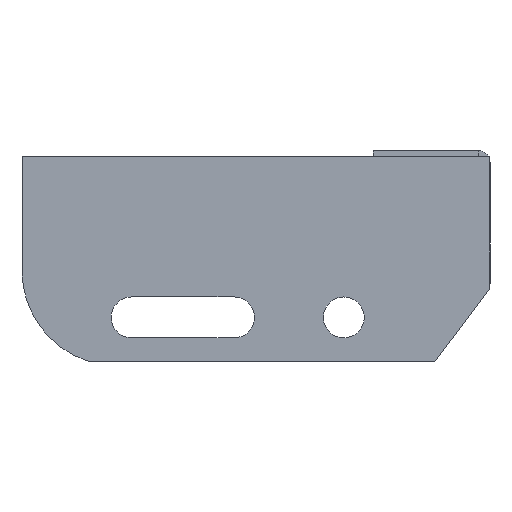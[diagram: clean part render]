
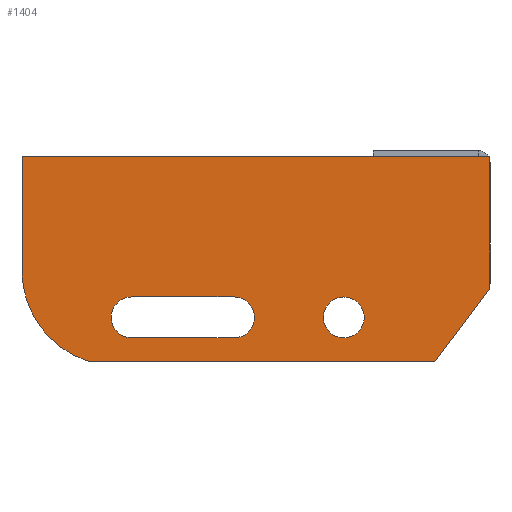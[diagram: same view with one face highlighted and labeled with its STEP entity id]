
A CAD part, left-side view. The second image highlights one B-rep face of the part: STEP entity #1404.
In plain terms, the highlighted planar face has unit normal (-1, 0, 0) as drawn and (0, 0, 1) by its records, which use the part's own axes.
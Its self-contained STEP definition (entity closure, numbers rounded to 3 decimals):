
#29 = VERTEX_POINT ( 'NONE', #623 ) ;
#35 = AXIS2_PLACEMENT_3D ( 'NONE', #1032, #1052, #1986 ) ;
#59 = CARTESIAN_POINT ( 'NONE',  ( -87.5, -55., 3. ) ) ;
#60 = DIRECTION ( 'NONE',  ( 1., 0., 0. ) ) ;
#64 = ORIENTED_EDGE ( 'NONE', *, *, #831, .F. ) ;
#73 = VERTEX_POINT ( 'NONE', #1206 ) ;
#74 = AXIS2_PLACEMENT_3D ( 'NONE', #1483, #969, #1136 ) ;
#100 = VERTEX_POINT ( 'NONE', #1675 ) ;
#109 = AXIS2_PLACEMENT_3D ( 'NONE', #136, #450, #1547 ) ;
#125 = CARTESIAN_POINT ( 'NONE',  ( 0., -45., 3. ) ) ;
#136 = CARTESIAN_POINT ( 'NONE',  ( -127.5, -39., 3. ) ) ;
#166 = VECTOR ( 'NONE', #1515, 1000. ) ;
#183 = EDGE_CURVE ( 'NONE', #991, #229, #1768, .T. ) ;
#187 = LINE ( 'NONE', #519, #2009 ) ;
#211 = CARTESIAN_POINT ( 'NONE',  ( -50., -55., 3. ) ) ;
#229 = VERTEX_POINT ( 'NONE', #335 ) ;
#242 = ORIENTED_EDGE ( 'NONE', *, *, #480, .F. ) ;
#245 = LINE ( 'NONE', #125, #166 ) ;
#248 = DIRECTION ( 'NONE',  ( -1., 0., 0. ) ) ;
#257 = ORIENTED_EDGE ( 'NONE', *, *, #1867, .T. ) ;
#271 = VECTOR ( 'NONE', #1014, 1000. ) ;
#274 = DIRECTION ( 'NONE',  ( 1., 0., 0. ) ) ;
#323 = EDGE_CURVE ( 'NONE', #1821, #515, #187, .T. ) ;
#327 = ORIENTED_EDGE ( 'NONE', *, *, #1798, .T. ) ;
#335 = CARTESIAN_POINT ( 'NONE',  ( -137.26, -70., 3. ) ) ;
#362 = DIRECTION ( 'NONE',  ( 0., -1., 0. ) ) ;
#374 = ORIENTED_EDGE ( 'NONE', *, *, #1685, .F. ) ;
#380 = LINE ( 'NONE', #1773, #1765 ) ;
#394 = EDGE_CURVE ( 'NONE', #491, #1303, #1049, .T. ) ;
#402 = CARTESIAN_POINT ( 'NONE',  ( 0., 0., 3. ) ) ;
#403 = ORIENTED_EDGE ( 'NONE', *, *, #682, .F. ) ;
#431 = VECTOR ( 'NONE', #274, 1000. ) ;
#450 = DIRECTION ( 'NONE',  ( 0., 0., 1. ) ) ;
#455 = CARTESIAN_POINT ( 'NONE',  ( -43., -55., 3. ) ) ;
#463 = ORIENTED_EDGE ( 'NONE', *, *, #183, .T. ) ;
#467 = DIRECTION ( 'NONE',  ( 0., 0., 1. ) ) ;
#480 = EDGE_CURVE ( 'NONE', #29, #100, #1897, .T. ) ;
#491 = VERTEX_POINT ( 'NONE', #741 ) ;
#515 = VERTEX_POINT ( 'NONE', #1824 ) ;
#519 = CARTESIAN_POINT ( 'NONE',  ( 0., 0., 3. ) ) ;
#524 = CARTESIAN_POINT ( 'NONE',  ( 0., 0., 3. ) ) ;
#538 = DIRECTION ( 'NONE',  ( 1., 0., 0. ) ) ;
#560 = CARTESIAN_POINT ( 'NONE',  ( -122.5, -55., 3. ) ) ;
#568 = AXIS2_PLACEMENT_3D ( 'NONE', #560, #723, #586 ) ;
#586 = DIRECTION ( 'NONE',  ( 1., 0., 0. ) ) ;
#606 = FACE_BOUND ( 'NONE', #1360, .T. ) ;
#623 = CARTESIAN_POINT ( 'NONE',  ( -129.5, -55., 3. ) ) ;
#633 = AXIS2_PLACEMENT_3D ( 'NONE', #211, #710, #60 ) ;
#682 = EDGE_CURVE ( 'NONE', #1054, #29, #1665, .T. ) ;
#684 = LINE ( 'NONE', #1342, #1511 ) ;
#695 = EDGE_CURVE ( 'NONE', #1513, #73, #245, .T. ) ;
#710 = DIRECTION ( 'NONE',  ( 0., 0., 1. ) ) ;
#723 = DIRECTION ( 'NONE',  ( 0., 0., 1. ) ) ;
#741 = CARTESIAN_POINT ( 'NONE',  ( -87.5, -62., 3. ) ) ;
#749 = DIRECTION ( 'NONE',  ( 1., 0., 0. ) ) ;
#763 = CARTESIAN_POINT ( 'NONE',  ( -160., -39., 3. ) ) ;
#780 = EDGE_LOOP ( 'NONE', ( #327, #1925, #257, #463, #1368, #1973 ) ) ;
#825 = VERTEX_POINT ( 'NONE', #1349 ) ;
#831 = EDGE_CURVE ( 'NONE', #100, #491, #1192, .T. ) ;
#851 = CIRCLE ( 'NONE', #74, 7. ) ;
#934 = VERTEX_POINT ( 'NONE', #455 ) ;
#969 = DIRECTION ( 'NONE',  ( 0., 0., 1. ) ) ;
#975 = CIRCLE ( 'NONE', #633, 7. ) ;
#991 = VERTEX_POINT ( 'NONE', #763 ) ;
#1014 = DIRECTION ( 'NONE',  ( 0., 1., 0. ) ) ;
#1032 = CARTESIAN_POINT ( 'NONE',  ( -122.5, -55., 3. ) ) ;
#1033 = ORIENTED_EDGE ( 'NONE', *, *, #1846, .F. ) ;
#1049 = CIRCLE ( 'NONE', #1579, 7. ) ;
#1052 = DIRECTION ( 'NONE',  ( 0., 0., 1. ) ) ;
#1054 = VERTEX_POINT ( 'NONE', #1969 ) ;
#1067 = EDGE_CURVE ( 'NONE', #229, #1513, #684, .T. ) ;
#1136 = DIRECTION ( 'NONE',  ( 1., 0., 0. ) ) ;
#1156 = ORIENTED_EDGE ( 'NONE', *, *, #1671, .F. ) ;
#1171 = DIRECTION ( 'NONE',  ( 0., 0., 1. ) ) ;
#1192 = LINE ( 'NONE', #1670, #431 ) ;
#1206 = CARTESIAN_POINT ( 'NONE',  ( 0., -45., 3. ) ) ;
#1217 = FACE_BOUND ( 'NONE', #1335, .T. ) ;
#1227 = CARTESIAN_POINT ( 'NONE',  ( -87.5, -48., 3. ) ) ;
#1243 = CARTESIAN_POINT ( 'NONE',  ( -127.5, -39., 3. ) ) ;
#1284 = CARTESIAN_POINT ( 'NONE',  ( -18.839, -70., 3. ) ) ;
#1293 = DIRECTION ( 'NONE',  ( -1., 0., 0. ) ) ;
#1299 = CARTESIAN_POINT ( 'NONE',  ( -160., 0., 3. ) ) ;
#1303 = VERTEX_POINT ( 'NONE', #1227 ) ;
#1306 = DIRECTION ( 'NONE',  ( 1., 0., 0. ) ) ;
#1335 = EDGE_LOOP ( 'NONE', ( #64, #242, #403, #374, #1758 ) ) ;
#1342 = CARTESIAN_POINT ( 'NONE',  ( -18.839, -70., 3. ) ) ;
#1349 = CARTESIAN_POINT ( 'NONE',  ( -57., -55., 3. ) ) ;
#1360 = EDGE_LOOP ( 'NONE', ( #1033, #1156 ) ) ;
#1368 = ORIENTED_EDGE ( 'NONE', *, *, #1067, .T. ) ;
#1398 = FACE_OUTER_BOUND ( 'NONE', #780, .T. ) ;
#1404 = ADVANCED_FACE ( 'NONE', ( #1398, #606, #1217 ), #1856, .T. ) ;
#1446 = VECTOR ( 'NONE', #362, 1000. ) ;
#1483 = CARTESIAN_POINT ( 'NONE',  ( -50., -55., 3. ) ) ;
#1511 = VECTOR ( 'NONE', #1306, 1000. ) ;
#1513 = VERTEX_POINT ( 'NONE', #1284 ) ;
#1515 = DIRECTION ( 'NONE',  ( 0.602, 0.799, 0. ) ) ;
#1547 = DIRECTION ( 'NONE',  ( 1., 0., 0. ) ) ;
#1579 = AXIS2_PLACEMENT_3D ( 'NONE', #59, #1171, #538 ) ;
#1665 = CIRCLE ( 'NONE', #35, 7. ) ;
#1670 = CARTESIAN_POINT ( 'NONE',  ( -122.5, -62., 3. ) ) ;
#1671 = EDGE_CURVE ( 'NONE', #934, #825, #975, .T. ) ;
#1675 = CARTESIAN_POINT ( 'NONE',  ( -122.5, -62., 3. ) ) ;
#1685 = EDGE_CURVE ( 'NONE', #1303, #1054, #380, .T. ) ;
#1738 = AXIS2_PLACEMENT_3D ( 'NONE', #1243, #467, #749 ) ;
#1758 = ORIENTED_EDGE ( 'NONE', *, *, #394, .F. ) ;
#1765 = VECTOR ( 'NONE', #248, 1000. ) ;
#1768 = CIRCLE ( 'NONE', #1738, 32.5 ) ;
#1773 = CARTESIAN_POINT ( 'NONE',  ( -122.5, -48., 3. ) ) ;
#1797 = LINE ( 'NONE', #402, #271 ) ;
#1798 = EDGE_CURVE ( 'NONE', #73, #1821, #1797, .T. ) ;
#1821 = VERTEX_POINT ( 'NONE', #524 ) ;
#1824 = CARTESIAN_POINT ( 'NONE',  ( -160., 0., 3. ) ) ;
#1846 = EDGE_CURVE ( 'NONE', #825, #934, #851, .T. ) ;
#1856 = PLANE ( 'NONE',  #109 ) ;
#1867 = EDGE_CURVE ( 'NONE', #515, #991, #1942, .T. ) ;
#1897 = CIRCLE ( 'NONE', #568, 7. ) ;
#1925 = ORIENTED_EDGE ( 'NONE', *, *, #323, .T. ) ;
#1942 = LINE ( 'NONE', #1299, #1446 ) ;
#1969 = CARTESIAN_POINT ( 'NONE',  ( -122.5, -48., 3. ) ) ;
#1973 = ORIENTED_EDGE ( 'NONE', *, *, #695, .T. ) ;
#1986 = DIRECTION ( 'NONE',  ( 1., 0., 0. ) ) ;
#2009 = VECTOR ( 'NONE', #1293, 1000. ) ;
